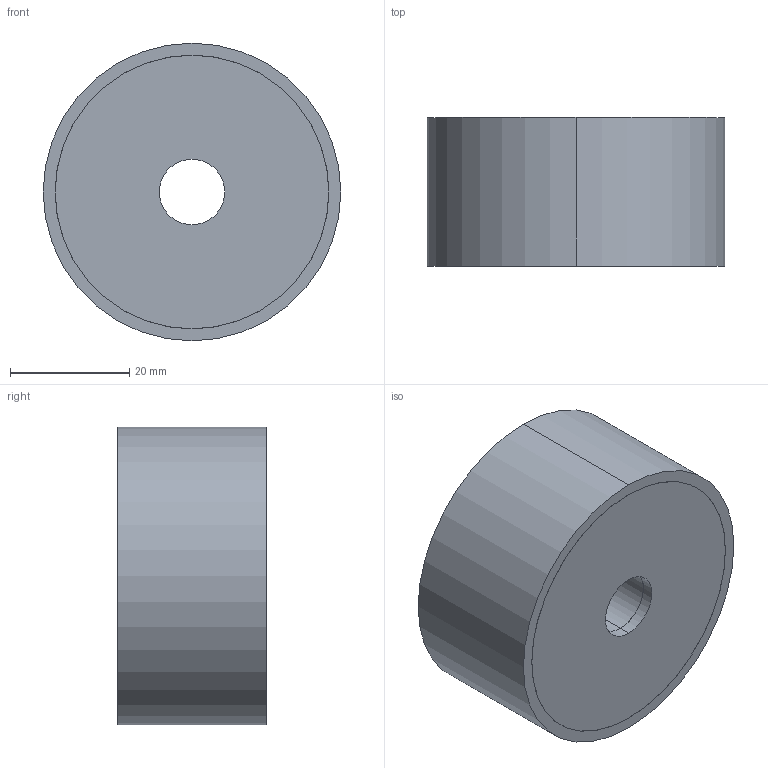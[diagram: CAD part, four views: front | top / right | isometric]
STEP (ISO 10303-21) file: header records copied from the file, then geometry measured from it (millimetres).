
FILE_DESCRIPTION (( 'STEP AP214' ), '1' );
FILE_NAME ('351-50-25-11-DD-55.step', '2025-07-23T10:13:01', ( '' ), ( '' ), 'SwSTEP 2.0', 'SolidWorks 2022', '' );
FILE_SCHEMA (( 'AUTOMOTIVE_DESIGN' ));
Length unit declared in the file: millimetre
Products named in the file (1): 351-50-25-11-DD-55
Bounding box: 50 x 25 x 50 mm (x, y, z)
Volume: 46711.5 mm3; surface area: 8535 mm2
Topology: 1 solids, 1 shells, 30 faces, 60 edges, 40 vertices
Faces by surface type: cylinder 20, plane 10
Entity records: 919 total; most frequent: DIRECTION 162, CARTESIAN_POINT 131, ORIENTED_EDGE 120, AXIS2_PLACEMENT_3D 71, EDGE_CURVE 60, EDGE_LOOP 40, CIRCLE 40, VERTEX_POINT 40
